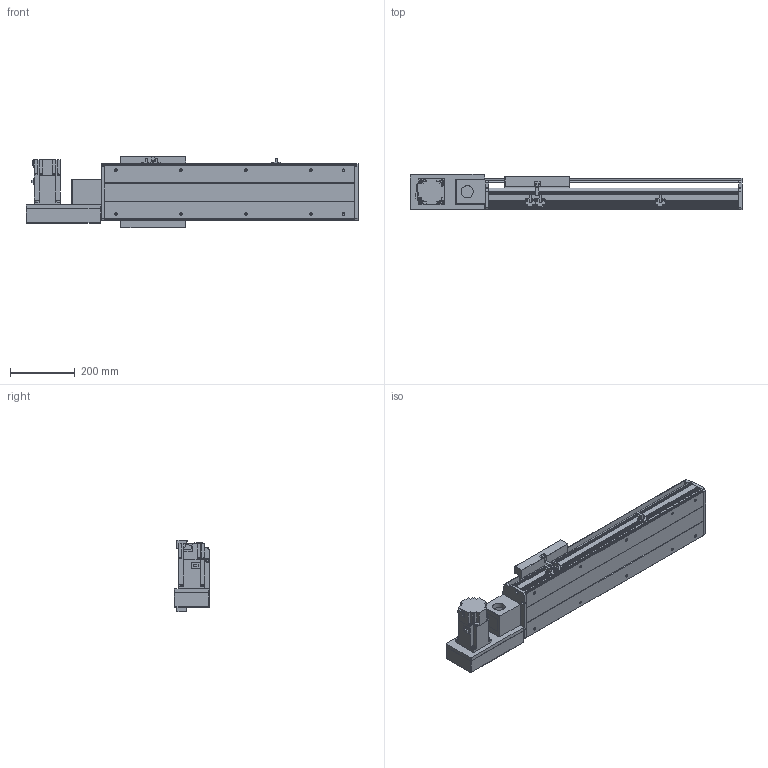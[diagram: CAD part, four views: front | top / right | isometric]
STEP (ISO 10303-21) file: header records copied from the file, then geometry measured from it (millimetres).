
FILE_DESCRIPTION(/* description */ ('STEP AP214'),/* implementation_level */ '2;1');
FILE_NAME(/* name */ 'PBS200-P40-S400-L-T75-C1-N(0)',/* time_stamp */ '2022-06-11T07:47:56+02:00',/* author */ ('License CC BY-ND 4.0'),/* organization */ ('CADENAS'),/* preprocessor_version */ 'ST-DEVELOPER v18.102',/* originating_system */ 'PARTsolutions',/* authorisation */ ' ');
FILE_SCHEMA (('AUTOMOTIVE_DESIGN {1 0 10303 214 3 1 1}'));
Length unit declared in the file: millimetre
Products named in the file (7): PBS200-P40-S400-L-T75-C1-N(0); PBS200_sensor; PBS200_plant; PBS200_sliser; T75-p1; PBS200T-L_motors; PBS200-S400()_body
Assembly tree (8 placements, depth 2):
  PBS200-P40-S400-L-T75-C1-N(0)
    PBS200_sensor  x3
    PBS200_plant
    PBS200_sliser
    T75-p1
    PBS200T-L_motors
    PBS200-S400()_body
Bounding box: 1022 x 109 x 221 mm (x, y, z)
Volume: 7490481.6 mm3; surface area: 1228915.2 mm2
Topology: 8 solids, 8 shells, 902 faces, 2344 edges, 1530 vertices
Faces by surface type: plane 568, cylinder 292, cone 42
Full cylindrical faces by diameter (mm): 2.459 x6, 3.242 x4, 4.5 x6, 4.917 x4, 5 x6, 6 x7, 6.6 x8, 6.647 x14, 8 x6, 10 x4, 12 x8, 38 x2, 40 x1, 70 x1
Entity records: 24221 total; most frequent: DIRECTION 4255, CARTESIAN_POINT 4138, ORIENTED_EDGE 3946, EDGE_CURVE 1973, AXIS2_PLACEMENT_3D 1471, VERTEX_POINT 1354, LINE 1313, VECTOR 1313
